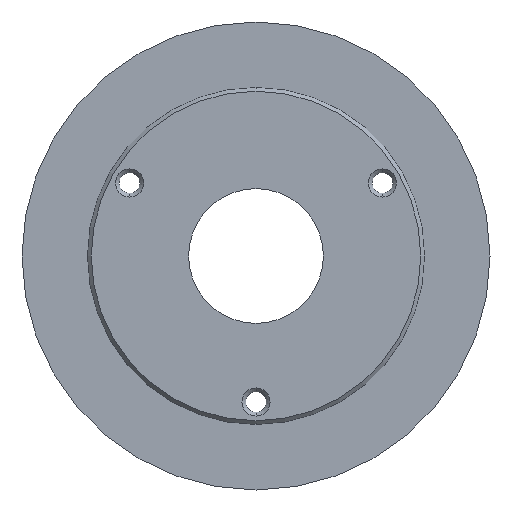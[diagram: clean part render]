
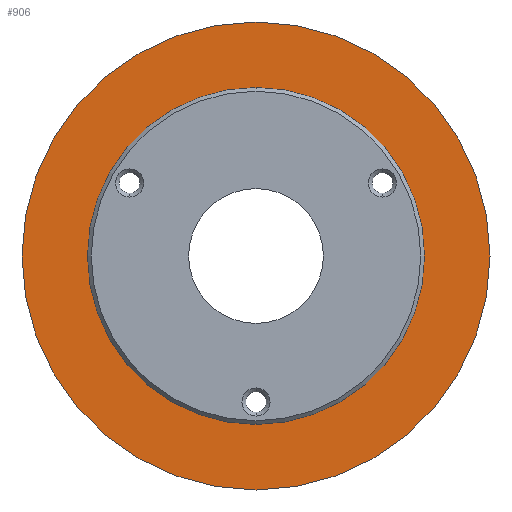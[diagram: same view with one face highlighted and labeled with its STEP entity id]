
A CAD part, front view. The second image highlights one B-rep face of the part: STEP entity #906.
In plain terms, the highlighted planar face has unit normal (0, -1, 0).
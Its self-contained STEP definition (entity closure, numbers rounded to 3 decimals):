
#63 = FACE_OUTER_BOUND ( 'NONE', #776, .T. ) ;
#79 = AXIS2_PLACEMENT_3D ( 'NONE', #1151, #1072, #778 ) ;
#99 = CIRCLE ( 'NONE', #79, 62.5 ) ;
#140 = ORIENTED_EDGE ( 'NONE', *, *, #376, .T. ) ;
#152 = VERTEX_POINT ( 'NONE', #1186 ) ;
#202 = DIRECTION ( 'NONE',  ( 0., -1., 0. ) ) ;
#224 = CIRCLE ( 'NONE', #548, 45. ) ;
#243 = EDGE_CURVE ( 'NONE', #152, #843, #224, .T. ) ;
#266 = EDGE_LOOP ( 'NONE', ( #830, #541 ) ) ;
#332 = DIRECTION ( 'NONE',  ( 0., 0., 1. ) ) ;
#376 = EDGE_CURVE ( 'NONE', #1068, #868, #99, .T. ) ;
#386 = AXIS2_PLACEMENT_3D ( 'NONE', #1146, #875, #332 ) ;
#407 = AXIS2_PLACEMENT_3D ( 'NONE', #425, #622, #619 ) ;
#408 = DIRECTION ( 'NONE',  ( 0., 0., -1. ) ) ;
#425 = CARTESIAN_POINT ( 'NONE',  ( 0., 4., 0. ) ) ;
#438 = EDGE_CURVE ( 'NONE', #868, #1068, #601, .T. ) ;
#480 = EDGE_CURVE ( 'NONE', #843, #152, #493, .T. ) ;
#493 = CIRCLE ( 'NONE', #770, 45. ) ;
#541 = ORIENTED_EDGE ( 'NONE', *, *, #480, .F. ) ;
#548 = AXIS2_PLACEMENT_3D ( 'NONE', #759, #202, #848 ) ;
#550 = ORIENTED_EDGE ( 'NONE', *, *, #438, .T. ) ;
#572 = FACE_BOUND ( 'NONE', #266, .T. ) ;
#601 = CIRCLE ( 'NONE', #407, 62.5 ) ;
#619 = DIRECTION ( 'NONE',  ( 0., 0., -1. ) ) ;
#622 = DIRECTION ( 'NONE',  ( 0., -1., 0. ) ) ;
#652 = DIRECTION ( 'NONE',  ( 0., -1., 0. ) ) ;
#759 = CARTESIAN_POINT ( 'NONE',  ( 0., 4., 0. ) ) ;
#770 = AXIS2_PLACEMENT_3D ( 'NONE', #1011, #652, #408 ) ;
#776 = EDGE_LOOP ( 'NONE', ( #140, #550 ) ) ;
#778 = DIRECTION ( 'NONE',  ( 0., 0., -1. ) ) ;
#830 = ORIENTED_EDGE ( 'NONE', *, *, #243, .F. ) ;
#843 = VERTEX_POINT ( 'NONE', #867 ) ;
#848 = DIRECTION ( 'NONE',  ( 0., 0., -1. ) ) ;
#867 = CARTESIAN_POINT ( 'NONE',  ( 0., 4., 45. ) ) ;
#868 = VERTEX_POINT ( 'NONE', #1137 ) ;
#872 = PLANE ( 'NONE',  #386 ) ;
#875 = DIRECTION ( 'NONE',  ( 0., 1., 0. ) ) ;
#906 = ADVANCED_FACE ( 'NONE', ( #572, #63 ), #872, .F. ) ;
#1011 = CARTESIAN_POINT ( 'NONE',  ( 0., 4., 0. ) ) ;
#1068 = VERTEX_POINT ( 'NONE', #1077 ) ;
#1072 = DIRECTION ( 'NONE',  ( 0., -1., 0. ) ) ;
#1077 = CARTESIAN_POINT ( 'NONE',  ( 0., 4., -62.5 ) ) ;
#1137 = CARTESIAN_POINT ( 'NONE',  ( 0., 4., 62.5 ) ) ;
#1146 = CARTESIAN_POINT ( 'NONE',  ( -45., 4., 0. ) ) ;
#1151 = CARTESIAN_POINT ( 'NONE',  ( 0., 4., 0. ) ) ;
#1186 = CARTESIAN_POINT ( 'NONE',  ( 0., 4., -45. ) ) ;
